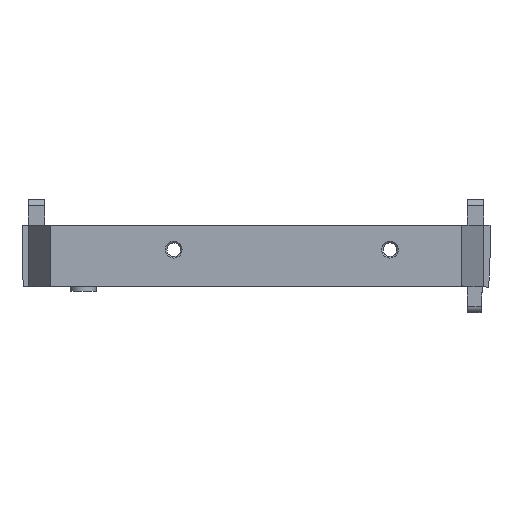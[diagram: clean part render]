
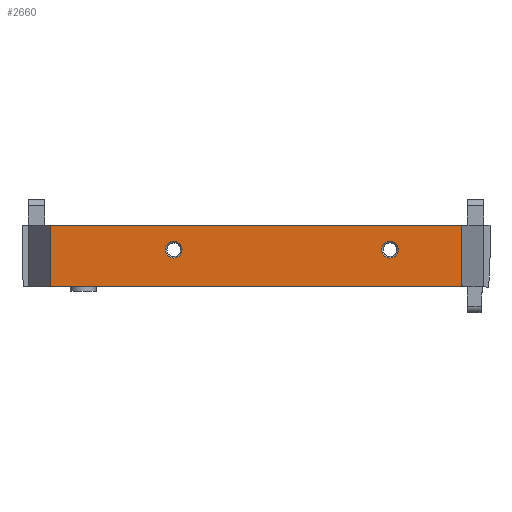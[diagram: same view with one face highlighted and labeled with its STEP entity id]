
A CAD part, left-side view. The second image highlights one B-rep face of the part: STEP entity #2660.
In plain terms, the highlighted planar face has unit normal (-1, 0, 0).
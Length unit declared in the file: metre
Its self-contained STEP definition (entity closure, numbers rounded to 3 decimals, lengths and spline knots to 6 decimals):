
#65=CIRCLE('',#2739,0.0026);
#132=CIRCLE('',#2921,0.0026);
#740=ORIENTED_EDGE('',*,*,#997,.T.);
#741=ORIENTED_EDGE('',*,*,#1266,.T.);
#742=ORIENTED_EDGE('',*,*,#1269,.F.);
#743=ORIENTED_EDGE('',*,*,#1277,.T.);
#744=ORIENTED_EDGE('',*,*,#1270,.F.);
#745=ORIENTED_EDGE('',*,*,#1273,.T.);
#746=ORIENTED_EDGE('',*,*,#1278,.F.);
#747=ORIENTED_EDGE('',*,*,#1279,.F.);
#997=EDGE_CURVE('',#1353,#1353,#65,.T.);
#1266=EDGE_CURVE('',#1533,#1533,#132,.T.);
#1269=EDGE_CURVE('',#1536,#1534,#1784,.T.);
#1270=EDGE_CURVE('',#1537,#1538,#1785,.T.);
#1273=EDGE_CURVE('',#1537,#1540,#1788,.T.);
#1277=EDGE_CURVE('',#1536,#1538,#1792,.T.);
#1278=EDGE_CURVE('',#1543,#1540,#1793,.T.);
#1279=EDGE_CURVE('',#1534,#1543,#1794,.T.);
#1353=VERTEX_POINT('',#3862);
#1533=VERTEX_POINT('',#4415);
#1534=VERTEX_POINT('',#4418);
#1536=VERTEX_POINT('',#4421);
#1537=VERTEX_POINT('',#4425);
#1538=VERTEX_POINT('',#4426);
#1540=VERTEX_POINT('',#4432);
#1543=VERTEX_POINT('',#4441);
#1784=LINE('',#4422,#2045);
#1785=LINE('',#4424,#2046);
#1788=LINE('',#4431,#2049);
#1792=LINE('',#4439,#2053);
#1793=LINE('',#4440,#2054);
#1794=LINE('',#4442,#2055);
#2045=VECTOR('',#3654,1.);
#2046=VECTOR('',#3657,1.);
#2049=VECTOR('',#3662,1.);
#2053=VECTOR('',#3668,1.);
#2054=VECTOR('',#3669,1.);
#2055=VECTOR('',#3670,1.);
#2245=EDGE_LOOP('',(#740));
#2246=EDGE_LOOP('',(#741));
#2247=EDGE_LOOP('',(#742,#743,#744,#745,#746,#747));
#2432=FACE_BOUND('',#2245,.T.);
#2433=FACE_BOUND('',#2246,.T.);
#2434=FACE_BOUND('',#2247,.T.);
#2518=PLANE('',#2925);
#2660=ADVANCED_FACE('',(#2432,#2433,#2434),#2518,.T.);
#2739=AXIS2_PLACEMENT_3D('',#3861,#3093,#3094);
#2921=AXIS2_PLACEMENT_3D('',#4414,#3648,#3649);
#2925=AXIS2_PLACEMENT_3D('',#4438,#3666,#3667);
#3093=DIRECTION('',(1.,0.,0.));
#3094=DIRECTION('',(0.,0.,-1.));
#3648=DIRECTION('',(1.,0.,0.));
#3649=DIRECTION('',(0.,0.,1.));
#3654=DIRECTION('',(0.,0.045,0.999));
#3657=DIRECTION('',(0.,0.045,-0.999));
#3662=DIRECTION('',(0.,0.,1.));
#3666=DIRECTION('',(-1.,0.,0.));
#3667=DIRECTION('',(0.,0.,-1.));
#3668=DIRECTION('',(0.,-1.,0.));
#3669=DIRECTION('',(0.,-1.,0.));
#3670=DIRECTION('',(0.,0.,1.));
#3861=CARTESIAN_POINT('',(-0.0965,-0.0415,0.281227));
#3862=CARTESIAN_POINT('',(-0.0965,-0.0415,0.278627));
#4414=CARTESIAN_POINT('',(-0.0965,0.0255,0.281227));
#4415=CARTESIAN_POINT('',(-0.0965,0.0255,0.283827));
#4418=CARTESIAN_POINT('',(-0.0965,0.06373,0.270013));
#4421=CARTESIAN_POINT('',(-0.0965,0.063717,0.269727));
#4422=CARTESIAN_POINT('',(-0.0965,0.063717,0.269727));
#4424=CARTESIAN_POINT('',(-0.0965,-0.06373,0.270013));
#4425=CARTESIAN_POINT('',(-0.0965,-0.06373,0.270013));
#4426=CARTESIAN_POINT('',(-0.0965,-0.063717,0.269727));
#4431=CARTESIAN_POINT('',(-0.0965,-0.06373,0.270013));
#4432=CARTESIAN_POINT('',(-0.0965,-0.06373,0.288831));
#4438=CARTESIAN_POINT('',(-0.0965,1.167992,0.32875));
#4439=CARTESIAN_POINT('',(-0.0965,0.063717,0.269727));
#4440=CARTESIAN_POINT('',(-0.0965,0.06373,0.288831));
#4441=CARTESIAN_POINT('',(-0.0965,0.06373,0.288831));
#4442=CARTESIAN_POINT('',(-0.0965,0.06373,0.270013));
